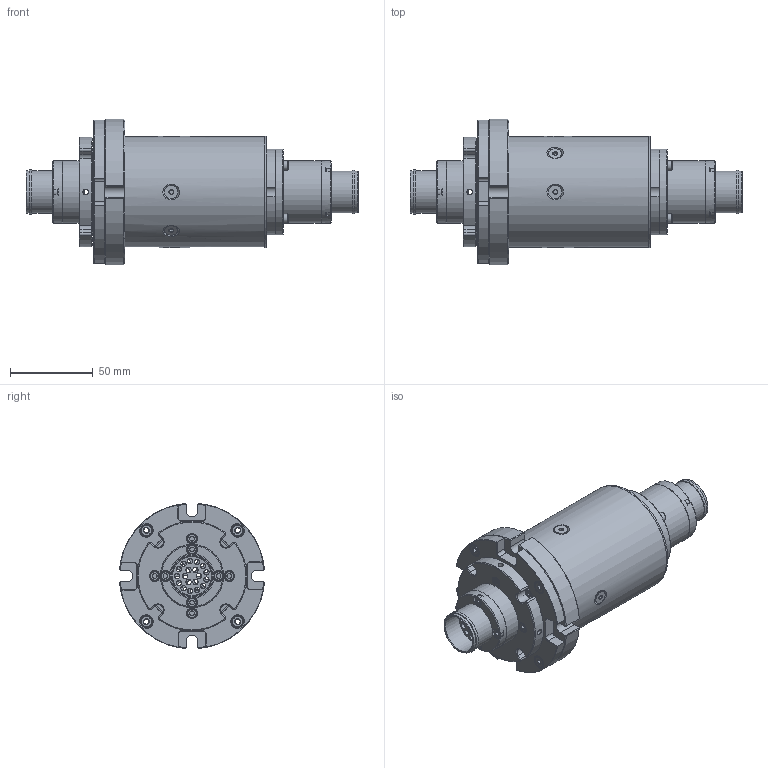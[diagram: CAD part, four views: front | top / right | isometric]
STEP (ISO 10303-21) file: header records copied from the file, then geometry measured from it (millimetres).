
FILE_DESCRIPTION (( 'STEP AP203' ), '1' );
FILE_NAME ('JXn2.STEP', '2024-02-16T19:04:57', ( '' ), ( '' ), 'SwSTEP 2.0', 'SolidWorks 2023', '' );
FILE_SCHEMA (( 'CONFIG_CONTROL_DESIGN' ));
Length unit declared in the file: millimetre
Products named in the file (1): JXn2
Bounding box: 200.3 x 87.68 x 87.68 mm (x, y, z)
Surface area: 67393.9 mm2 (no closed solid volume)
Topology: 0 solids, 49 shells, 638 faces, 1683 edges, 1032 vertices
Faces by surface type: plane 280, cone 205, cylinder 150, bspline 3
Full cylindrical faces by diameter (mm): 0.9 x1, 1 x2, 3.2 x32, 3.3 x8, 4.5 x1, 5.5 x15, 6.5 x8, 7 x4, 8 x10, 23.4 x2, 25.4 x4, 26.6 x2, 38 x4, 50 x1, 51 x1, 51.453 x1, 52 x1, 52.318 x1, 67 x2
Entity records: 21720 total; most frequent: CARTESIAN_POINT 7139, DIRECTION 3144, ORIENTED_EDGE 2391, EDGE_CURVE 1473, AXIS2_PLACEMENT_3D 1287, VERTEX_POINT 975, EDGE_LOOP 937, FACE_OUTER_BOUND 738
